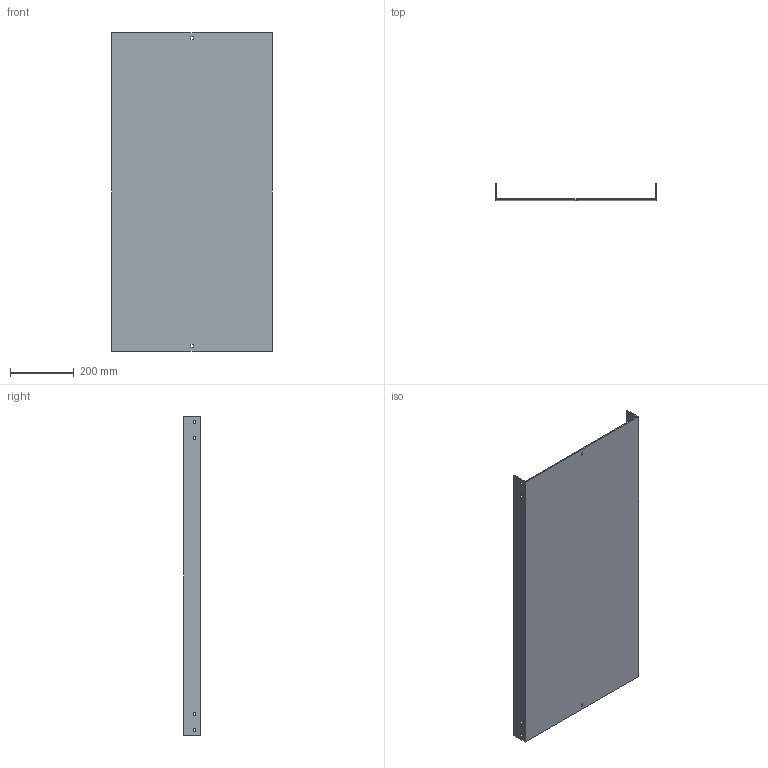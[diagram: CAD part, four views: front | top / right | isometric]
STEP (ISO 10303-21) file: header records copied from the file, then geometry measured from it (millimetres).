
FILE_DESCRIPTION (( 'STEP AP214' ), '1' );
FILE_NAME ('03F1B500.step', '2025-02-21T13:23:16', ( '' ), ( '' ), 'SwSTEP 2.0', 'SolidWorks 2023', '' );
FILE_SCHEMA (( 'AUTOMOTIVE_DESIGN' ));
Length unit declared in the file: millimetre
Products named in the file (1): 03F1B500
Bounding box: 504 x 52 x 1000 mm (x, y, z)
Volume: 2101130.5 mm3; surface area: 1213022 mm2
Topology: 1 solids, 1 shells, 50 faces, 144 edges, 96 vertices
Faces by surface type: plane 50
Entity records: 1671 total; most frequent: CARTESIAN_POINT 291, ORIENTED_EDGE 288, DIRECTION 246, VECTOR 144, LINE 144, EDGE_CURVE 144, VERTEX_POINT 96, EDGE_LOOP 70
